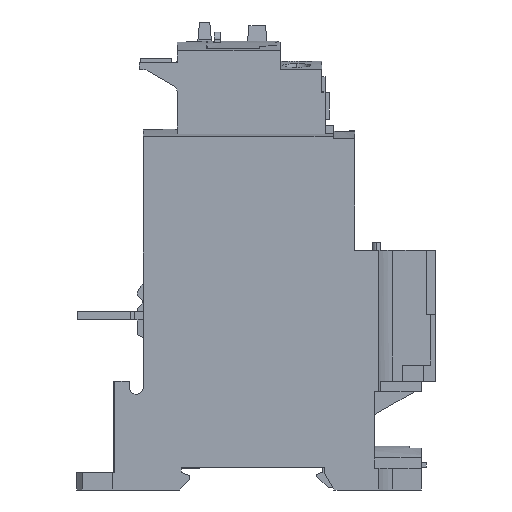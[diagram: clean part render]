
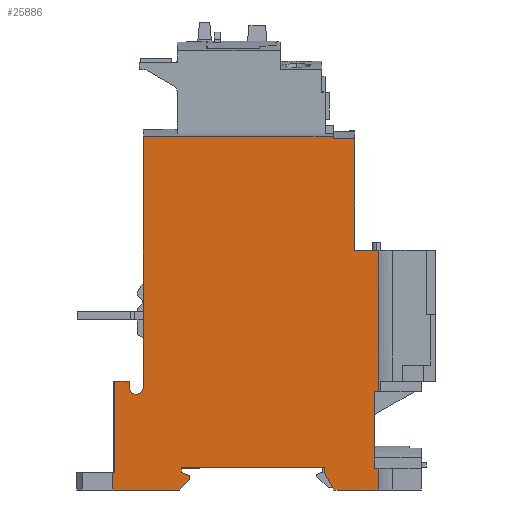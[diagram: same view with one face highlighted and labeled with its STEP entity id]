
A CAD part, left-side view. The second image highlights one B-rep face of the part: STEP entity #25886.
In plain terms, the highlighted planar face has unit normal (-1, 0, 0).
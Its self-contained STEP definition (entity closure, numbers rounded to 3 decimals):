
#977=DIRECTION('',(0.,0.,1.));
#978=VECTOR('',#977,0.52);
#979=CARTESIAN_POINT('',(0.6,25.3,86.91));
#980=LINE('',#979,#978);
#992=DIRECTION('',(0.,1.,0.));
#993=VECTOR('',#992,1.038);
#994=CARTESIAN_POINT('',(0.6,13.962,24.42));
#995=LINE('',#994,#993);
#999=DIRECTION('',(0.,0.,1.));
#1000=VECTOR('',#999,5.42);
#1001=CARTESIAN_POINT('',(0.6,13.962,0.));
#1002=LINE('',#1001,#1000);
#1006=DIRECTION('',(0.,1.,0.));
#1007=VECTOR('',#1006,16.35);
#1008=CARTESIAN_POINT('',(0.6,63.4,0.));
#1009=LINE('',#1008,#1007);
#1013=DIRECTION('',(0.,0.,1.));
#1014=VECTOR('',#1013,34.9);
#1015=CARTESIAN_POINT('',(0.6,13.962,24.42));
#1016=LINE('',#1015,#1014);
#1175=DIRECTION('',(0.,0.,1.));
#1176=VECTOR('',#1175,19.);
#1177=CARTESIAN_POINT('',(0.6,15.,5.42));
#1178=LINE('',#1177,#1176);
#1676=DIRECTION('',(0.,1.,0.));
#1677=VECTOR('',#1676,11.129);
#1678=CARTESIAN_POINT('',(0.6,13.962,0.));
#1679=LINE('',#1678,#1677);
#2499=DIRECTION('',(0.,1.,0.));
#2500=VECTOR('',#2499,0.41);
#2501=CARTESIAN_POINT('',(0.6,79.34,4.3));
#2502=LINE('',#2501,#2500);
#2629=DIRECTION('',(0.,0.,-1.));
#2630=VECTOR('',#2629,4.3);
#2631=CARTESIAN_POINT('',(0.6,79.75,4.3));
#2632=LINE('',#2631,#2630);
#2776=DIRECTION('',(0.,-1.,0.));
#2777=VECTOR('',#2776,35.5);
#2778=CARTESIAN_POINT('',(0.6,62.9,5.5));
#2779=LINE('',#2778,#2777);
#4546=DIRECTION('',(0.,0.,-1.));
#4547=VECTOR('',#4546,62.07);
#4548=CARTESIAN_POINT('',(0.6,72.3,87.43));
#4549=LINE('',#4548,#4547);
#4822=DIRECTION('',(0.,-1.,0.));
#4823=VECTOR('',#4822,3.64);
#4824=CARTESIAN_POINT('',(0.6,79.34,26.956));
#4825=LINE('',#4824,#4823);
#5766=DIRECTION('',(0.,0.,1.));
#5767=VECTOR('',#5766,22.656);
#5768=CARTESIAN_POINT('',(0.6,79.34,4.3));
#5769=LINE('',#5768,#5767);
#5833=DIRECTION('',(0.,0.,1.));
#5834=VECTOR('',#5833,1.596);
#5835=CARTESIAN_POINT('',(0.6,75.7,25.36));
#5836=LINE('',#5835,#5834);
#5861=CARTESIAN_POINT('',(0.6,74.,25.36));
#5862=DIRECTION('',(1.,0.,0.));
#5863=DIRECTION('',(0.,-1.,0.));
#5864=AXIS2_PLACEMENT_3D('',#5861,#5862,#5863);
#6027=DIRECTION('',(0.,0.,1.));
#6028=VECTOR('',#6027,1.1);
#6029=CARTESIAN_POINT('',(0.6,62.9,4.4));
#6030=LINE('',#6029,#6028);
#6083=DIRECTION('',(0.,0.912,0.41));
#6084=VECTOR('',#6083,2.193);
#6085=CARTESIAN_POINT('',(0.6,60.9,3.5));
#6086=LINE('',#6085,#6084);
#6111=DIRECTION('',(0.,0.,1.));
#6112=VECTOR('',#6111,1.);
#6113=CARTESIAN_POINT('',(0.6,60.9,2.5));
#6114=LINE('',#6113,#6112);
#6153=DIRECTION('',(0.,-0.707,0.707));
#6154=VECTOR('',#6153,3.536);
#6155=CARTESIAN_POINT('',(0.6,63.4,0.));
#6156=LINE('',#6155,#6154);
#6589=DIRECTION('',(0.,1.,0.));
#6590=VECTOR('',#6589,47.);
#6591=CARTESIAN_POINT('',(0.6,25.3,87.43));
#6592=LINE('',#6591,#6590);
#11678=DIRECTION('',(0.,-1.,0.));
#11679=VECTOR('',#11678,5.3);
#11680=CARTESIAN_POINT('',(0.6,25.3,86.91));
#11681=LINE('',#11680,#11679);
#11856=DIRECTION('',(0.,0.,1.));
#11857=VECTOR('',#11856,27.59);
#11858=CARTESIAN_POINT('',(0.6,20.,59.32));
#11859=LINE('',#11858,#11857);
#12644=DIRECTION('',(0.,-1.,0.));
#12645=VECTOR('',#12644,6.038);
#12646=CARTESIAN_POINT('',(0.6,20.,59.32));
#12647=LINE('',#12646,#12645);
#13046=DIRECTION('',(0.,-1.,0.));
#13047=VECTOR('',#13046,1.038);
#13048=CARTESIAN_POINT('',(0.6,15.,5.42));
#13049=LINE('',#13048,#13047);
#14157=DIRECTION('',(0.,0.,-1.));
#14158=VECTOR('',#14157,1.5);
#14159=CARTESIAN_POINT('',(0.6,27.4,5.5));
#14160=LINE('',#14159,#14158);
#14199=DIRECTION('',(0.,-0.5,-0.866));
#14200=VECTOR('',#14199,4.619);
#14201=CARTESIAN_POINT('',(0.6,27.4,4.));
#14202=LINE('',#14201,#14200);
#24073=CARTESIAN_POINT('',(0.6,13.962,0.));
#24074=CARTESIAN_POINT('',(0.6,25.091,0.));
#24075=VERTEX_POINT('',#24073);
#24076=VERTEX_POINT('',#24074);
#24097=CARTESIAN_POINT('',(0.6,79.34,4.3));
#24098=CARTESIAN_POINT('',(0.6,79.75,4.3));
#24099=VERTEX_POINT('',#24097);
#24100=VERTEX_POINT('',#24098);
#24105=CARTESIAN_POINT('',(0.6,79.34,26.956));
#24106=VERTEX_POINT('',#24105);
#24109=CARTESIAN_POINT('',(0.6,72.3,87.43));
#24110=CARTESIAN_POINT('',(0.6,72.3,25.36));
#24111=VERTEX_POINT('',#24109);
#24112=VERTEX_POINT('',#24110);
#24117=CARTESIAN_POINT('',(0.6,75.7,26.956));
#24118=VERTEX_POINT('',#24117);
#24121=CARTESIAN_POINT('',(0.6,25.3,87.43));
#24122=VERTEX_POINT('',#24121);
#24127=CARTESIAN_POINT('',(0.6,20.,59.32));
#24128=CARTESIAN_POINT('',(0.6,20.,86.91));
#24129=VERTEX_POINT('',#24127);
#24130=VERTEX_POINT('',#24128);
#24135=CARTESIAN_POINT('',(0.6,13.962,59.32));
#24136=VERTEX_POINT('',#24135);
#24139=CARTESIAN_POINT('',(0.6,63.4,0.));
#24140=CARTESIAN_POINT('',(0.6,60.9,2.5));
#24141=VERTEX_POINT('',#24139);
#24142=VERTEX_POINT('',#24140);
#24147=CARTESIAN_POINT('',(0.6,60.9,3.5));
#24148=VERTEX_POINT('',#24147);
#24151=CARTESIAN_POINT('',(0.6,62.9,4.4));
#24152=VERTEX_POINT('',#24151);
#24155=CARTESIAN_POINT('',(0.6,62.9,5.5));
#24156=VERTEX_POINT('',#24155);
#24159=CARTESIAN_POINT('',(0.6,27.4,5.5));
#24160=VERTEX_POINT('',#24159);
#24163=CARTESIAN_POINT('',(0.6,27.4,4.));
#24164=VERTEX_POINT('',#24163);
#24167=CARTESIAN_POINT('',(0.6,15.,5.42));
#24168=CARTESIAN_POINT('',(0.6,13.962,5.42));
#24169=VERTEX_POINT('',#24167);
#24170=VERTEX_POINT('',#24168);
#24175=CARTESIAN_POINT('',(0.6,79.75,0.));
#24176=VERTEX_POINT('',#24175);
#24179=CARTESIAN_POINT('',(0.6,75.7,25.36));
#24180=VERTEX_POINT('',#24179);
#24183=CARTESIAN_POINT('',(0.6,25.3,86.91));
#24184=VERTEX_POINT('',#24183);
#24201=CARTESIAN_POINT('',(0.6,13.962,24.42));
#24202=VERTEX_POINT('',#24201);
#24203=CARTESIAN_POINT('',(0.6,15.,24.42));
#24204=VERTEX_POINT('',#24203);
#25828=CARTESIAN_POINT('',(0.6,13.962,-31.63));
#25829=DIRECTION('',(1.,0.,0.));
#25830=DIRECTION('',(0.,1.,0.));
#25831=AXIS2_PLACEMENT_3D('',#25828,#25829,#25830);
#25832=PLANE('',#25831);
#25834=ORIENTED_EDGE('',*,*,#25833,.T.);
#25836=ORIENTED_EDGE('',*,*,#25835,.F.);
#25838=ORIENTED_EDGE('',*,*,#25837,.T.);
#25840=ORIENTED_EDGE('',*,*,#25839,.F.);
#25842=ORIENTED_EDGE('',*,*,#25841,.T.);
#25844=ORIENTED_EDGE('',*,*,#25843,.F.);
#25846=ORIENTED_EDGE('',*,*,#25845,.F.);
#25848=ORIENTED_EDGE('',*,*,#25847,.F.);
#25850=ORIENTED_EDGE('',*,*,#25849,.F.);
#25852=ORIENTED_EDGE('',*,*,#25851,.F.);
#25854=ORIENTED_EDGE('',*,*,#25853,.F.);
#25856=ORIENTED_EDGE('',*,*,#25855,.F.);
#25858=ORIENTED_EDGE('',*,*,#25857,.T.);
#25860=ORIENTED_EDGE('',*,*,#25859,.F.);
#25862=ORIENTED_EDGE('',*,*,#25861,.F.);
#25864=ORIENTED_EDGE('',*,*,#25863,.T.);
#25866=ORIENTED_EDGE('',*,*,#25865,.T.);
#25868=ORIENTED_EDGE('',*,*,#25867,.F.);
#25870=ORIENTED_EDGE('',*,*,#25869,.F.);
#25872=ORIENTED_EDGE('',*,*,#25871,.F.);
#25874=ORIENTED_EDGE('',*,*,#25873,.F.);
#25875=ORIENTED_EDGE('',*,*,#25808,.F.);
#25877=ORIENTED_EDGE('',*,*,#25876,.T.);
#25879=ORIENTED_EDGE('',*,*,#25878,.F.);
#25881=ORIENTED_EDGE('',*,*,#25880,.T.);
#25883=ORIENTED_EDGE('',*,*,#25882,.F.);
#25884=EDGE_LOOP('',(#25834,#25836,#25838,#25840,#25842,#25844,#25846,#25848,
#25850,#25852,#25854,#25856,#25858,#25860,#25862,#25864,#25866,#25868,#25870,
#25872,#25874,#25875,#25877,#25879,#25881,#25883));
#25885=FACE_OUTER_BOUND('',#25884,.F.);
#5865=CIRCLE('',#5864,1.7);
#25808=EDGE_CURVE('',#24184,#24122,#980,.T.);
#25833=EDGE_CURVE('',#24202,#24204,#995,.T.);
#25835=EDGE_CURVE('',#24169,#24204,#1178,.T.);
#25837=EDGE_CURVE('',#24169,#24170,#13049,.T.);
#25839=EDGE_CURVE('',#24075,#24170,#1002,.T.);
#25841=EDGE_CURVE('',#24075,#24076,#1679,.T.);
#25843=EDGE_CURVE('',#24164,#24076,#14202,.T.);
#25845=EDGE_CURVE('',#24160,#24164,#14160,.T.);
#25847=EDGE_CURVE('',#24156,#24160,#2779,.T.);
#25849=EDGE_CURVE('',#24152,#24156,#6030,.T.);
#25851=EDGE_CURVE('',#24148,#24152,#6086,.T.);
#25853=EDGE_CURVE('',#24142,#24148,#6114,.T.);
#25855=EDGE_CURVE('',#24141,#24142,#6156,.T.);
#25857=EDGE_CURVE('',#24141,#24176,#1009,.T.);
#25859=EDGE_CURVE('',#24100,#24176,#2632,.T.);
#25861=EDGE_CURVE('',#24099,#24100,#2502,.T.);
#25863=EDGE_CURVE('',#24099,#24106,#5769,.T.);
#25865=EDGE_CURVE('',#24106,#24118,#4825,.T.);
#25867=EDGE_CURVE('',#24180,#24118,#5836,.T.);
#25869=EDGE_CURVE('',#24112,#24180,#5865,.T.);
#25871=EDGE_CURVE('',#24111,#24112,#4549,.T.);
#25873=EDGE_CURVE('',#24122,#24111,#6592,.T.);
#25876=EDGE_CURVE('',#24184,#24130,#11681,.T.);
#25878=EDGE_CURVE('',#24129,#24130,#11859,.T.);
#25880=EDGE_CURVE('',#24129,#24136,#12647,.T.);
#25882=EDGE_CURVE('',#24202,#24136,#1016,.T.);
#25886=ADVANCED_FACE('',(#25885),#25832,.F.);
